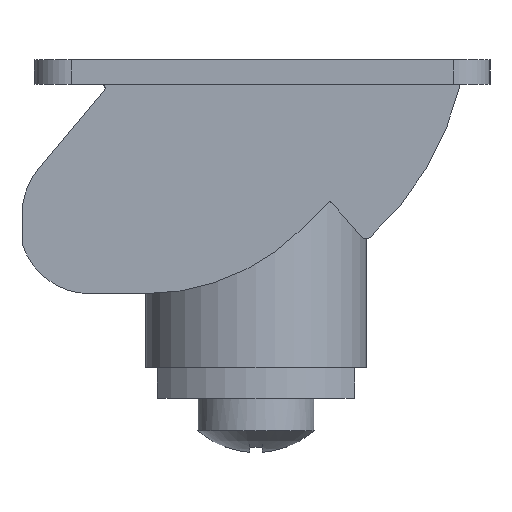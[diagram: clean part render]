
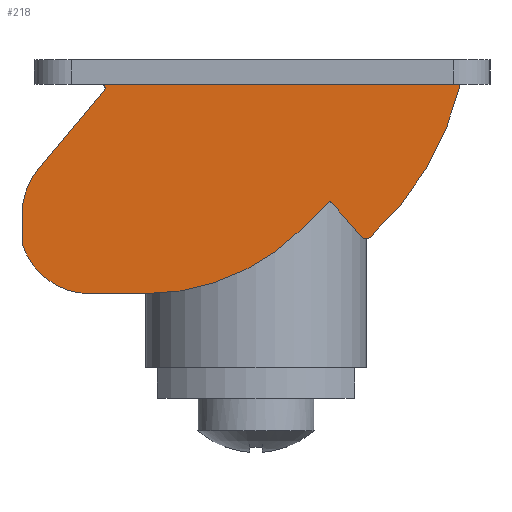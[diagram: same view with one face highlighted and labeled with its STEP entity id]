
A CAD part, left-side view. The second image highlights one B-rep face of the part: STEP entity #218.
In plain terms, the highlighted planar face has unit normal (-1, 0, 0).
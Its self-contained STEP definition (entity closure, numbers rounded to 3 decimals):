
#218 = ADVANCED_FACE( '', ( #366 ), #367, .F. );
#366 = FACE_OUTER_BOUND( '', #560, .T. );
#367 = PLANE( '', #561 );
#560 = EDGE_LOOP( '', ( #1035, #1036, #1037, #1038, #1039, #1040, #1041, #1042, #1043, #1044, #1045, #1046, #1047 ) );
#561 = AXIS2_PLACEMENT_3D( '', #1048, #1049, #1050 );
#1035 = ORIENTED_EDGE( '', *, *, #1493, .F. );
#1036 = ORIENTED_EDGE( '', *, *, #1494, .T. );
#1037 = ORIENTED_EDGE( '', *, *, #1495, .T. );
#1038 = ORIENTED_EDGE( '', *, *, #1496, .F. );
#1039 = ORIENTED_EDGE( '', *, *, #1497, .F. );
#1040 = ORIENTED_EDGE( '', *, *, #1498, .F. );
#1041 = ORIENTED_EDGE( '', *, *, #1499, .F. );
#1042 = ORIENTED_EDGE( '', *, *, #1500, .F. );
#1043 = ORIENTED_EDGE( '', *, *, #1501, .F. );
#1044 = ORIENTED_EDGE( '', *, *, #1502, .F. );
#1045 = ORIENTED_EDGE( '', *, *, #1503, .T. );
#1046 = ORIENTED_EDGE( '', *, *, #1504, .F. );
#1047 = ORIENTED_EDGE( '', *, *, #1505, .F. );
#1048 = CARTESIAN_POINT( '', ( -99., 7.058, 5.589 ) );
#1049 = DIRECTION( '', ( 1., 0., 0. ) );
#1050 = DIRECTION( '', ( 0., 0., -1. ) );
#1493 = EDGE_CURVE( '', #1802, #1803, #1804, .T. );
#1494 = EDGE_CURVE( '', #1802, #1805, #1806, .T. );
#1495 = EDGE_CURVE( '', #1805, #1807, #1808, .T. );
#1496 = EDGE_CURVE( '', #1809, #1807, #1810, .T. );
#1497 = EDGE_CURVE( '', #1811, #1809, #1812, .T. );
#1498 = EDGE_CURVE( '', #1813, #1811, #1814, .T. );
#1499 = EDGE_CURVE( '', #1815, #1813, #1816, .T. );
#1500 = EDGE_CURVE( '', #1817, #1815, #1818, .T. );
#1501 = EDGE_CURVE( '', #1819, #1817, #1820, .T. );
#1502 = EDGE_CURVE( '', #1821, #1819, #1822, .T. );
#1503 = EDGE_CURVE( '', #1821, #1823, #1824, .T. );
#1504 = EDGE_CURVE( '', #1825, #1823, #1826, .T. );
#1505 = EDGE_CURVE( '', #1803, #1825, #1827, .T. );
#1802 = VERTEX_POINT( '', #2258 );
#1803 = VERTEX_POINT( '', #2259 );
#1804 = CIRCLE( '', #2260, 24.298 );
#1805 = VERTEX_POINT( '', #2261 );
#1806 = LINE( '', #2262, #2263 );
#1807 = VERTEX_POINT( '', #2264 );
#1808 = CIRCLE( '', #2265, 0.3 );
#1809 = VERTEX_POINT( '', #2266 );
#1810 = LINE( '', #2267, #2268 );
#1811 = VERTEX_POINT( '', #2269 );
#1812 = CIRCLE( '', #2270, 5.8 );
#1813 = VERTEX_POINT( '', #2271 );
#1814 = LINE( '', #2272, #2273 );
#1815 = VERTEX_POINT( '', #2274 );
#1816 = CIRCLE( '', #2275, 5.8 );
#1817 = VERTEX_POINT( '', #2276 );
#1818 = LINE( '', #2277, #2278 );
#1819 = VERTEX_POINT( '', #2279 );
#1820 = CIRCLE( '', #2280, 18. );
#1821 = VERTEX_POINT( '', #2281 );
#1822 = LINE( '', #2282, #2283 );
#1823 = VERTEX_POINT( '', #2284 );
#1824 = CIRCLE( '', #2285, 0.2 );
#1825 = VERTEX_POINT( '', #2286 );
#1826 = LINE( '', #2287, #2288 );
#1827 = CIRCLE( '', #2289, 0.5 );
#2258 = CARTESIAN_POINT( '', ( -99., -16.589, 0. ) );
#2259 = CARTESIAN_POINT( '', ( -99., -9.265, -12.411 ) );
#2260 = AXIS2_PLACEMENT_3D( '', #2687, #2688, #2689 );
#2261 = CARTESIAN_POINT( '', ( -99., 12.552, 0. ) );
#2262 = CARTESIAN_POINT( '', ( -99., 15., 0. ) );
#2263 = VECTOR( '', #2690, 1000. );
#2264 = CARTESIAN_POINT( '', ( -99., 12.322, -0.493 ) );
#2265 = AXIS2_PLACEMENT_3D( '', #2691, #2692, #2693 );
#2266 = CARTESIAN_POINT( '', ( -99., 17.643, -6.834 ) );
#2267 = CARTESIAN_POINT( '', ( -99., 17.643, -6.834 ) );
#2268 = VECTOR( '', #2694, 1000. );
#2269 = CARTESIAN_POINT( '', ( -99., 19., -10.562 ) );
#2270 = AXIS2_PLACEMENT_3D( '', #2695, #2696, #2697 );
#2271 = CARTESIAN_POINT( '', ( -99., 19., -12.917 ) );
#2272 = CARTESIAN_POINT( '', ( -99., 19., -12.917 ) );
#2273 = VECTOR( '', #2698, 1000. );
#2274 = CARTESIAN_POINT( '', ( -99., 13.46, -17. ) );
#2275 = AXIS2_PLACEMENT_3D( '', #2699, #2700, #2701 );
#2276 = CARTESIAN_POINT( '', ( -99., 8.987, -17. ) );
#2277 = CARTESIAN_POINT( '', ( -99., 8.987, -17. ) );
#2278 = VECTOR( '', #2702, 1000. );
#2279 = CARTESIAN_POINT( '', ( -99., -3.741, -11.728 ) );
#2280 = AXIS2_PLACEMENT_3D( '', #2703, #2704, #2705 );
#2281 = CARTESIAN_POINT( '', ( -99., -5.865, -9.604 ) );
#2282 = CARTESIAN_POINT( '', ( -99., -5.865, -9.604 ) );
#2283 = VECTOR( '', #2706, 1000. );
#2284 = CARTESIAN_POINT( '', ( -99., -6.157, -9.614 ) );
#2285 = AXIS2_PLACEMENT_3D( '', #2707, #2708, #2709 );
#2286 = CARTESIAN_POINT( '', ( -99., -8.551, -12.368 ) );
#2287 = CARTESIAN_POINT( '', ( -99., -8.551, -12.368 ) );
#2288 = VECTOR( '', #2710, 1000. );
#2289 = AXIS2_PLACEMENT_3D( '', #2711, #2712, #2713 );
#2687 = CARTESIAN_POINT( '', ( -99., 7.058, 5.589 ) );
#2688 = DIRECTION( '', ( 1., 0., 0. ) );
#2689 = DIRECTION( '', ( 0., 0., -1. ) );
#2690 = DIRECTION( '', ( 0., 1., 0. ) );
#2691 = CARTESIAN_POINT( '', ( -99., 12.552, -0.3 ) );
#2692 = DIRECTION( '', ( 1., 0., 0. ) );
#2693 = DIRECTION( '', ( 0., 0., -1. ) );
#2694 = DIRECTION( '', ( 0., -0.643, 0.766 ) );
#2695 = CARTESIAN_POINT( '', ( -99., 13.2, -10.562 ) );
#2696 = DIRECTION( '', ( 1., 0., 0. ) );
#2697 = DIRECTION( '', ( 0., 0., -1. ) );
#2698 = DIRECTION( '', ( 0., 0., 1. ) );
#2699 = CARTESIAN_POINT( '', ( -99., 13.46, -11.2 ) );
#2700 = DIRECTION( '', ( 1., 0., 0. ) );
#2701 = DIRECTION( '', ( 0., 0., -1. ) );
#2702 = DIRECTION( '', ( 0., 1., 0. ) );
#2703 = CARTESIAN_POINT( '', ( -99., 8.987, 1. ) );
#2704 = DIRECTION( '', ( 1., 0., 0. ) );
#2705 = DIRECTION( '', ( 0., 0., -1. ) );
#2706 = DIRECTION( '', ( 0., 0.707, -0.707 ) );
#2707 = CARTESIAN_POINT( '', ( -99., -6.006, -9.745 ) );
#2708 = DIRECTION( '', ( 1., 0., 0. ) );
#2709 = DIRECTION( '', ( 0., 0., -1. ) );
#2710 = DIRECTION( '', ( 0., 0.656, 0.755 ) );
#2711 = CARTESIAN_POINT( '', ( -99., -8.929, -12.04 ) );
#2712 = DIRECTION( '', ( 1., 0., 0. ) );
#2713 = DIRECTION( '', ( 0., 0., -1. ) );
